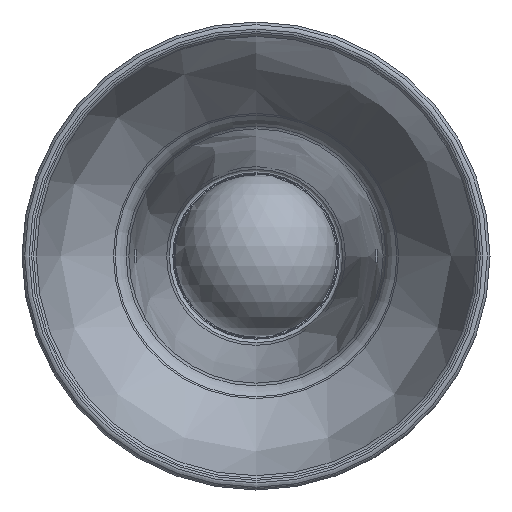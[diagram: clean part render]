
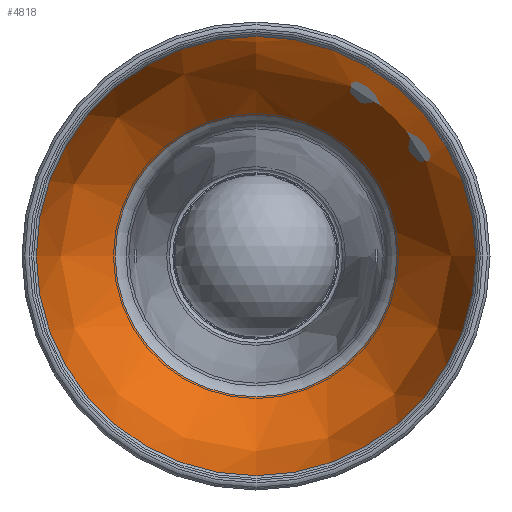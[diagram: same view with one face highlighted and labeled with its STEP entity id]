
A CAD part, front view. The second image highlights one B-rep face of the part: STEP entity #4818.
In plain terms, the highlighted free-form (B-spline) face has degree [2, 2] with [3, 9] control points.
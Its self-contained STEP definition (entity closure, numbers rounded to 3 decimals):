
#1120=(
BOUNDED_SURFACE()
B_SPLINE_SURFACE(2,2,((#7161,#7162,#7163,#7164,#7165,#7166,#7167,#7168,
#7169),(#7170,#7171,#7172,#7173,#7174,#7175,#7176,#7177,#7178),(#7179,#7180,
#7181,#7182,#7183,#7184,#7185,#7186,#7187)),.UNSPECIFIED.,.F.,.T.,.F.)
B_SPLINE_SURFACE_WITH_KNOTS((3,3),(3,2,2,2,3),(-0.87,-0.085),
(-3.142,-1.571,0.,1.571,3.142),
 .UNSPECIFIED.)
GEOMETRIC_REPRESENTATION_ITEM()
RATIONAL_B_SPLINE_SURFACE(((1.,0.707,1.,0.707,1.,
0.707,1.,0.707,1.),(0.924,0.653,
0.924,0.653,0.924,0.653,
0.924,0.653,0.924),(1.,0.707,
1.,0.707,1.,0.707,1.,0.707,1.)))
REPRESENTATION_ITEM('')
SURFACE()
);
#1136=FACE_OUTER_BOUND('',#1439,.T.);
#1439=EDGE_LOOP('',(#3327,#3328,#3329,#3330));
#1791=CIRCLE('',#5151,39.107);
#1798=CIRCLE('',#5158,61.007);
#1799=CIRCLE('',#5159,62.361);
#2078=VERTEX_POINT('',#7100);
#2088=VERTEX_POINT('',#7188);
#2568=EDGE_CURVE('',#2078,#2078,#1791,.T.);
#2579=EDGE_CURVE('',#2088,#2088,#1798,.T.);
#2580=EDGE_CURVE('',#2088,#2078,#1799,.T.);
#3327=ORIENTED_EDGE('',*,*,#2579,.T.);
#3328=ORIENTED_EDGE('',*,*,#2580,.T.);
#3329=ORIENTED_EDGE('',*,*,#2568,.F.);
#3330=ORIENTED_EDGE('',*,*,#2580,.F.);
#4818=ADVANCED_FACE('',(#1136),#1120,.T.);
#5151=AXIS2_PLACEMENT_3D('',#7102,#5709,#5710);
#5158=AXIS2_PLACEMENT_3D('',#7189,#5723,#5724);
#5159=AXIS2_PLACEMENT_3D('',#7190,#5725,#5726);
#5709=DIRECTION('center_axis',(0.,-1.,0.));
#5710=DIRECTION('ref_axis',(-1.,0.,0.));
#5723=DIRECTION('center_axis',(0.,-1.,0.));
#5724=DIRECTION('ref_axis',(1.,0.,0.));
#5725=DIRECTION('center_axis',(-1.,0.,0.));
#5726=DIRECTION('ref_axis',(0.,0.,1.));
#7100=CARTESIAN_POINT('',(0.,44.174,39.107));
#7102=CARTESIAN_POINT('Origin',(0.,44.174,0.));
#7161=CARTESIAN_POINT('Ctrl Pts',(0.,44.174,39.107));
#7162=CARTESIAN_POINT('Ctrl Pts',(-39.107,44.174,39.107));
#7163=CARTESIAN_POINT('Ctrl Pts',(-39.107,44.174,0.));
#7164=CARTESIAN_POINT('Ctrl Pts',(-39.107,44.174,-39.107));
#7165=CARTESIAN_POINT('Ctrl Pts',(0.,44.174,-39.107));
#7166=CARTESIAN_POINT('Ctrl Pts',(39.107,44.174,-39.107));
#7167=CARTESIAN_POINT('Ctrl Pts',(39.107,44.174,0.));
#7168=CARTESIAN_POINT('Ctrl Pts',(39.107,44.174,39.107));
#7169=CARTESIAN_POINT('Ctrl Pts',(0.,44.174,39.107));
#7170=CARTESIAN_POINT('Ctrl Pts',(0.,27.531,58.815));
#7171=CARTESIAN_POINT('Ctrl Pts',(-58.815,27.531,58.815));
#7172=CARTESIAN_POINT('Ctrl Pts',(-58.815,27.531,0.));
#7173=CARTESIAN_POINT('Ctrl Pts',(-58.815,27.531,-58.815));
#7174=CARTESIAN_POINT('Ctrl Pts',(0.,27.531,-58.815));
#7175=CARTESIAN_POINT('Ctrl Pts',(58.815,27.531,-58.815));
#7176=CARTESIAN_POINT('Ctrl Pts',(58.815,27.531,0.));
#7177=CARTESIAN_POINT('Ctrl Pts',(58.815,27.531,58.815));
#7178=CARTESIAN_POINT('Ctrl Pts',(0.,27.531,58.815));
#7179=CARTESIAN_POINT('Ctrl Pts',(0.,1.83,61.007));
#7180=CARTESIAN_POINT('Ctrl Pts',(-61.007,1.83,61.007));
#7181=CARTESIAN_POINT('Ctrl Pts',(-61.007,1.83,0.));
#7182=CARTESIAN_POINT('Ctrl Pts',(-61.007,1.83,-61.007));
#7183=CARTESIAN_POINT('Ctrl Pts',(0.,1.83,-61.007));
#7184=CARTESIAN_POINT('Ctrl Pts',(61.007,1.83,-61.007));
#7185=CARTESIAN_POINT('Ctrl Pts',(61.007,1.83,0.));
#7186=CARTESIAN_POINT('Ctrl Pts',(61.007,1.83,61.007));
#7187=CARTESIAN_POINT('Ctrl Pts',(0.,1.83,61.007));
#7188=CARTESIAN_POINT('',(0.,1.83,61.007));
#7189=CARTESIAN_POINT('Origin',(0.,1.83,0.));
#7190=CARTESIAN_POINT('Origin',(0.,-3.471,
-1.128));
